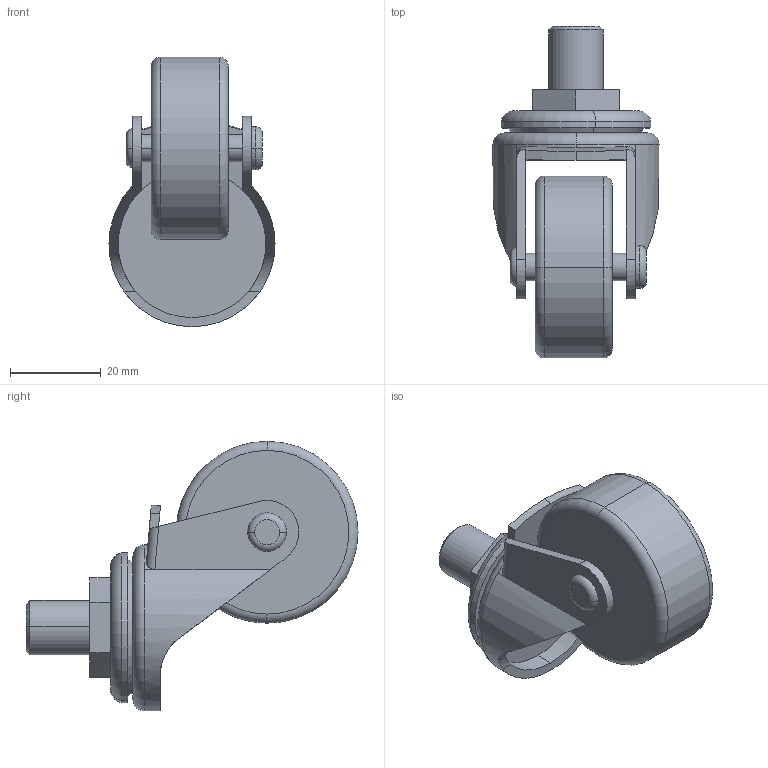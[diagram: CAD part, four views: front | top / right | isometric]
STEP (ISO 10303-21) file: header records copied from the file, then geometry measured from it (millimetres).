
FILE_DESCRIPTION (( 'STEP AP214' ), '1' );
FILE_NAME ('LT-40R M12-14.STEP', '2020-03-23T14:00:51', ( '' ), ( '' ), 'SwSTEP 2.0', 'SolidWorks 2019', '' );
FILE_SCHEMA (( 'AUTOMOTIVE_DESIGN' ));
Length unit declared in the file: millimetre
Products named in the file (7): LT M12_nut; LT-40R M12-14; LT-40R M12-14_Wheel; LT-40R M12-14_partsA; LT-40R M12-14_partsB; LT M12-14_bolt; LT-40R M12-14_jiku
Assembly tree (6 placements, depth 2):
  LT-40R M12-14
    LT-40R M12-14_partsB
    LT-40R M12-14_Wheel
    LT-40R M12-14_jiku
    LT-40R M12-14_partsA
    LT M12_nut
    LT M12-14_bolt
Bounding box: 36.5 x 73 x 59.25 mm (x, y, z)
Volume: 34031 mm3; surface area: 15504 mm2
Topology: 6 solids, 6 shells, 84 faces, 191 edges, 122 vertices
Faces by surface type: plane 38, cylinder 30, torus 12, cone 4
Entity records: 2745 total; most frequent: CARTESIAN_POINT 526, DIRECTION 443, ORIENTED_EDGE 382, EDGE_CURVE 191, AXIS2_PLACEMENT_3D 177, VERTEX_POINT 122, EDGE_LOOP 95, VECTOR 89
